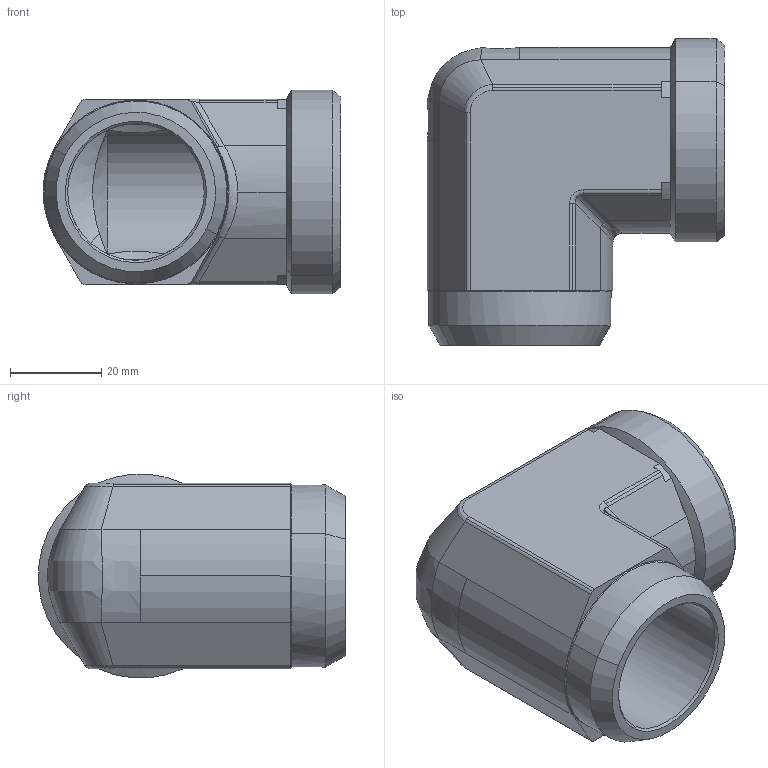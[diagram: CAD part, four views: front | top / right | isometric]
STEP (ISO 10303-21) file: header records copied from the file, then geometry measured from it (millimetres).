
FILE_DESCRIPTION((''),'2;1');
FILE_NAME('105812.stp','2007-10-31T14:42:33',(''),(''),'AutoCAD STEP 2000i','AutoCAD 2000i',', , ');
FILE_SCHEMA(('CONFIG_CONTROL_DESIGN'));
Length unit declared in the file: millimetre
Products named in the file (2): 105812.0; 3090#0
Assembly tree (1 placements, depth 2):
  105812.0
    3090#0
Bounding box: 65.38 x 67.33 x 44.66 mm (x, y, z)
Volume: 57876.6 mm3; surface area: 21759.4 mm2
Topology: 1 solids, 1 shells, 106 faces, 254 edges, 152 vertices
Faces by surface type: cylinder 48, plane 26, cone 18, bspline 14
Entity records: 4072 total; most frequent: CARTESIAN_POINT 1484, DIRECTION 555, ORIENTED_EDGE 508, EDGE_CURVE 254, AXIS2_PLACEMENT_3D 227, VERTEX_POINT 152, CIRCLE 114, EDGE_LOOP 110
